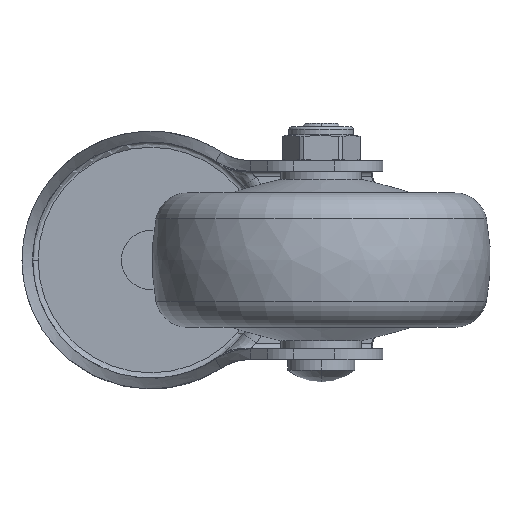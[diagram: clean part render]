
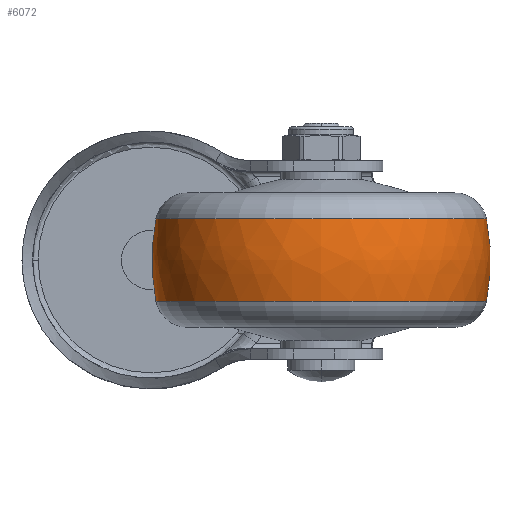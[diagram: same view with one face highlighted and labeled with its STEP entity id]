
A CAD part, front view. The second image highlights one B-rep face of the part: STEP entity #6072.
In plain terms, the highlighted free-form (B-spline) face has degree [3, 3] with [7, 4] control points.
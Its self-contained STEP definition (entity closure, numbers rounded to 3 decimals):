
#5650=CARTESIAN_POINT('',(-7.647,0.,0.));
#5651=DIRECTION('',(-1.,0.,0.));
#5652=DIRECTION('',(0.,1.,0.));
#5653=AXIS2_PLACEMENT_3D('',#5650,#5651,#5652);
#5769=CARTESIAN_POINT('',(0.,-8.5,0.));
#5770=DIRECTION('',(0.,0.,1.));
#5771=DIRECTION('',(0.191,0.982,0.));
#5772=AXIS2_PLACEMENT_3D('',#5769,#5770,#5771);
#5774=CARTESIAN_POINT('',(0.,8.5,0.));
#5775=DIRECTION('',(0.,0.,-1.));
#5776=DIRECTION('',(0.191,-0.982,0.));
#5777=AXIS2_PLACEMENT_3D('',#5774,#5775,#5776);
#5779=CARTESIAN_POINT('',(7.647,0.,0.));
#5780=DIRECTION('',(-1.,0.,0.));
#5781=DIRECTION('',(0.,1.,0.));
#5782=AXIS2_PLACEMENT_3D('',#5779,#5780,#5781);
#5789=CARTESIAN_POINT('',(-7.647,30.762,0.));
#5791=VERTEX_POINT('',#5789);
#5806=CARTESIAN_POINT('',(7.647,30.762,0.));
#5808=VERTEX_POINT('',#5806);
#5809=CARTESIAN_POINT('',(-7.647,-30.762,0.));
#5811=VERTEX_POINT('',#5809);
#5826=CARTESIAN_POINT('',(7.647,-30.762,0.));
#5828=VERTEX_POINT('',#5826);
#6035=CARTESIAN_POINT('',(-7.949,-30.642,
1.928));
#6036=CARTESIAN_POINT('',(-2.685,-31.707,
1.995));
#6037=CARTESIAN_POINT('',(2.685,-31.707,1.995));
#6038=CARTESIAN_POINT('',(7.949,-30.642,1.928));
#6039=CARTESIAN_POINT('',(-7.949,-31.828,
-16.929));
#6040=CARTESIAN_POINT('',(-2.685,-32.934,
-17.518));
#6041=CARTESIAN_POINT('',(2.685,-32.934,
-17.518));
#6042=CARTESIAN_POINT('',(7.949,-31.828,
-16.929));
#6043=CARTESIAN_POINT('',(-7.949,-18.894,
-30.702));
#6044=CARTESIAN_POINT('',(-2.685,-19.551,
-31.77));
#6045=CARTESIAN_POINT('',(2.685,-19.551,
-31.77));
#6046=CARTESIAN_POINT('',(7.949,-18.894,
-30.702));
#6047=CARTESIAN_POINT('',(-7.949,0.,
-30.702));
#6048=CARTESIAN_POINT('',(-2.685,0.,
-31.77));
#6049=CARTESIAN_POINT('',(2.685,0.,
-31.77));
#6050=CARTESIAN_POINT('',(7.949,0.,-30.702));
#6051=CARTESIAN_POINT('',(-7.949,18.894,
-30.702));
#6052=CARTESIAN_POINT('',(-2.685,19.551,
-31.77));
#6053=CARTESIAN_POINT('',(2.685,19.551,-31.77));
#6054=CARTESIAN_POINT('',(7.949,18.894,-30.702));
#6055=CARTESIAN_POINT('',(-7.949,31.828,
-16.929));
#6056=CARTESIAN_POINT('',(-2.685,32.934,
-17.518));
#6057=CARTESIAN_POINT('',(2.685,32.934,-17.518));
#6058=CARTESIAN_POINT('',(7.949,31.828,-16.929));
#6059=CARTESIAN_POINT('',(-7.949,30.642,1.928));
#6060=CARTESIAN_POINT('',(-2.685,31.707,1.995));
#6061=CARTESIAN_POINT('',(2.685,31.707,1.995));
#6062=CARTESIAN_POINT('',(7.949,30.642,1.928));
#6063=(BOUNDED_SURFACE()B_SPLINE_SURFACE(3,3,((#6035,#6036,#6037,#6038),(#6039,
#6040,#6041,#6042),(#6043,#6044,#6045,#6046),(#6047,#6048,#6049,#6050),(#6051,
#6052,#6053,#6054),(#6055,#6056,#6057,#6058),(#6059,#6060,#6061,#6062)),
.UNSPECIFIED.,.F.,.F.,.F.)B_SPLINE_SURFACE_WITH_KNOTS((4,3,4),(4,4),(0.,1.,
2.),(0.,1.),.UNSPECIFIED.)GEOMETRIC_REPRESENTATION_ITEM()RATIONAL_B_SPLINE_SURFACE(((1.199,1.183,1.183,1.199),(
0.947,0.934,0.934,0.947),(
0.947,0.934,0.934,0.947),(
1.199,1.183,1.183,1.199),(
0.947,0.934,0.934,0.947),(
0.947,0.934,0.934,0.947),(
1.199,1.183,1.183,1.199)))REPRESENTATION_ITEM('')SURFACE());
#6065=ORIENTED_EDGE('',*,*,#6064,.T.);
#6066=ORIENTED_EDGE('',*,*,#5854,.T.);
#6068=ORIENTED_EDGE('',*,*,#6067,.F.);
#6069=ORIENTED_EDGE('',*,*,#6028,.F.);
#6070=EDGE_LOOP('',(#6065,#6066,#6068,#6069));
#6071=FACE_OUTER_BOUND('',#6070,.F.);
#5654=CIRCLE('',#5653,30.762);
#5773=CIRCLE('',#5772,40.);
#5778=CIRCLE('',#5777,40.);
#5783=CIRCLE('',#5782,30.762);
#5854=EDGE_CURVE('',#5791,#5811,#5654,.T.);
#6028=EDGE_CURVE('',#5808,#5828,#5783,.T.);
#6064=EDGE_CURVE('',#5808,#5791,#5773,.T.);
#6067=EDGE_CURVE('',#5828,#5811,#5778,.T.);
#6072=ADVANCED_FACE('',(#6071),#6063,.T.);
